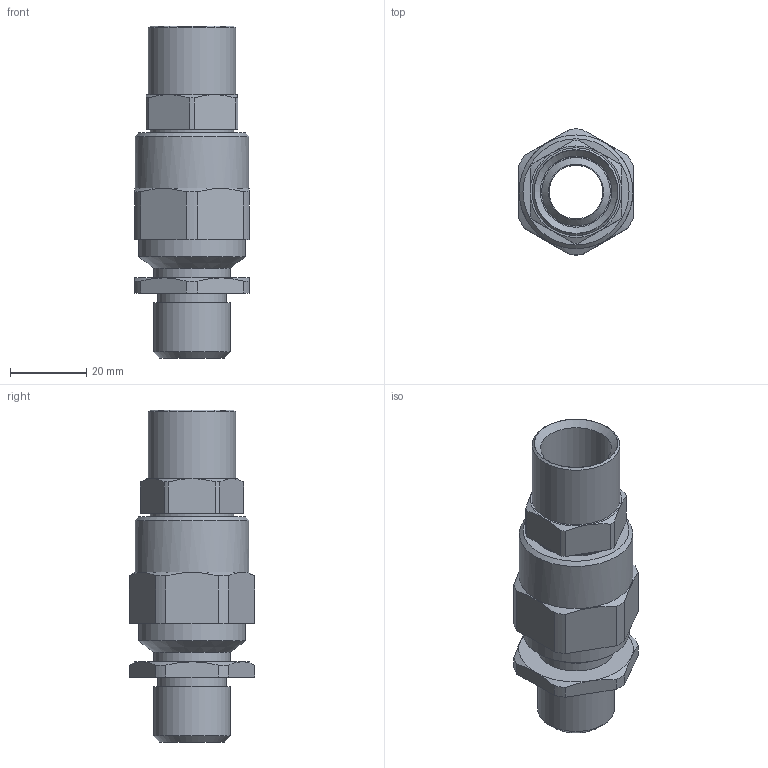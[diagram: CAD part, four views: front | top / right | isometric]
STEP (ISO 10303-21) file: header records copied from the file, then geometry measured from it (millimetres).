
FILE_DESCRIPTION((''),'2;1');
FILE_NAME('D:\WORKS\Чертежи\ТЗ\07.24\108974\КОВТВЛ1MGНК_3d.stp','2024-07-31T09:05:30',('t.v.ogurnaya'),(''),'Autodesk Inventor 2012','Autodesk Inventor 2012','');
FILE_SCHEMA(('AUTOMOTIVE_DESIGN { 1 0 10303 214 1 1 1 1 }'));
Length unit declared in the file: millimetre
Products named in the file (1): КОВТВЛ (параметрика)_Внешний контур_1
Bounding box: 30 x 32.98 x 87 mm (x, y, z)
Volume: 23477.4 mm3; surface area: 21765.2 mm2
Topology: 6 solids, 6 shells, 109 faces, 237 edges, 152 vertices
Faces by surface type: plane 42, cylinder 41, cone 26
Full cylindrical faces by diameter (mm): 14.1 x2, 18 x4, 18.1 x1, 18.631 x1, 20 x2, 20.376 x1, 22 x2, 22.5 x1, 23 x2, 23.1 x1, 26 x3, 26.376 x1, 28 x1, 29.8 x1
Entity records: 2869 total; most frequent: CARTESIAN_POINT 502, DIRECTION 486, ORIENTED_EDGE 380, AXIS2_PLACEMENT_3D 216, EDGE_CURVE 190, EDGE_LOOP 170, VERTEX_POINT 142, STYLED_ITEM 115
